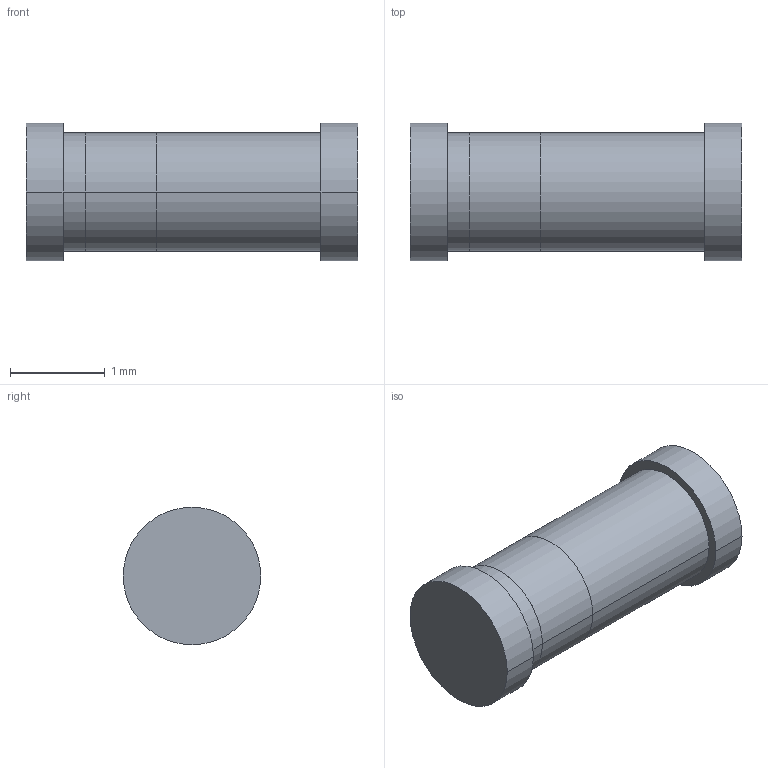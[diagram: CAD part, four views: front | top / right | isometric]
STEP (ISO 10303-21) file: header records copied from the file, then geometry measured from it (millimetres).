
FILE_DESCRIPTION (( 'STEP AP214' ), '1' );
FILE_NAME ( 'DIOMELF350X145L39.STEP', '2021-10-06T06:48:59', ( '' ), ( '' ), '', '©2017 PCB Libraries, Inc.', '' );
FILE_SCHEMA (( 'AUTOMOTIVE_DESIGN' ));
Length unit declared in the file: millimetre
Products named in the file (1): DIOMELF350X145L39
Bounding box: 3.5 x 1.45 x 1.45 mm (x, y, z)
Volume: 4.6 mm3; surface area: 23.3 mm2
Topology: 3 solids, 3 shells, 18 faces, 30 edges, 20 vertices
Faces by surface type: cylinder 10, plane 8
Entity records: 543 total; most frequent: DIRECTION 88, CARTESIAN_POINT 69, ORIENTED_EDGE 60, AXIS2_PLACEMENT_3D 39, EDGE_CURVE 30, STYLED_ITEM 22, PRESENTATION_LAYER_ASSIGNMENT 22, MECHANICAL_DESIGN_GEOMETRIC_PRESENTATION_REPRESENTATION 22
